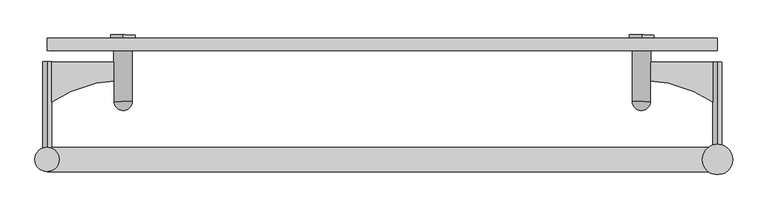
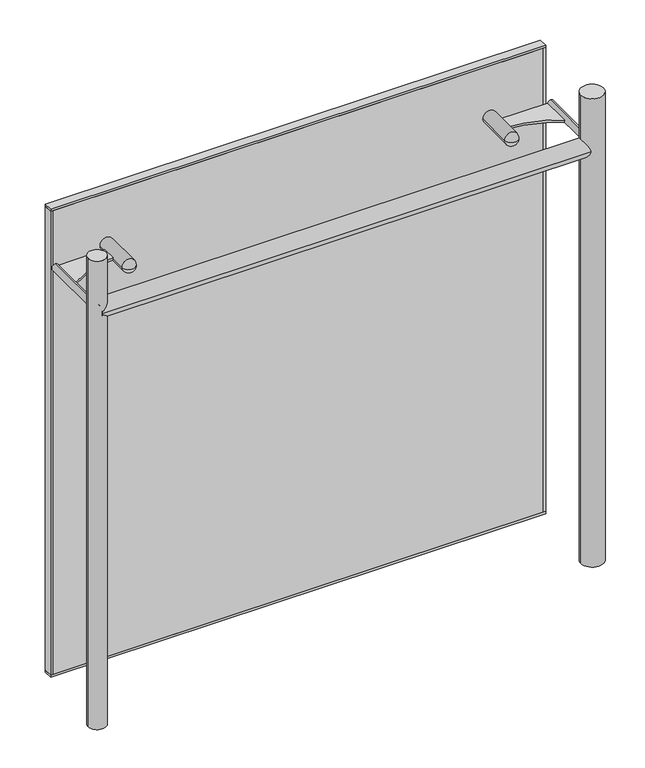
"""IFC4 building model written with IfcOpenShell, lengths in millimetres: plate geometry, FLATNING_TRYOUT : FLATNING_TRYOUT."""

from ifc_helpers import new_model, si_unit, point, frame, frame_2d, origin, origin_with_axes, place, context, project, spatial, polyline, circle_curve, ellipse_curve, trimmed, segment, composite_curve, outline, extrude, source, transform, mapped, element, save
from ifc_brep_helpers import plane_surface, cylinder_surface, revolved_surface, advanced_brep


def plate_eec9145b(model_context):
    return source(origin(), model_context, "Body", "SolidModel", [
        extrude(outline(composite_curve([segment(polyline([(-427.363113, -38.8273073), (-427.208613, -68.8269095)]), True, "CONTINUOUS"), segment(trimmed(circle_curve(frame_2d((-421.8263088, -297.2578864)), 228.4943772), [point((-427.208613, -68.8269095))], [point((-552.0009553, -109.470129))], True, "CARTESIAN"), True, "CONTINUOUS"), segment(polyline([(-552.0009553, -109.470129), (-552.3614553, -39.4710573), (-427.363113, -38.8273073)]), True, "CONTINUOUS")], self_intersect=False)), frame((0.0, 0.0, 977.5), z_axis=(0.0, 0.0, 1.0), x_axis=(1.0, 0.0, 0.0)), (0.0, 0.0, 1.0), 5.0),
        advanced_brep(
        [(-427.569113, 1.1721622, 980.0), (-432.5690467, 1.1464122, 980.0), (-422.5691793, 1.1979122, 980.0), (-412.4663119, -18.7503226, 980.0), (-442.4659141, -18.9048226, 980.0), (-442.0281641, -103.9036953, 980.0), (-412.0285619, -103.7491953, 980.0), (-422.4661793, -18.8018226, 980.0), (-432.4660467, -18.8533226, 980.0), (-426.951113, -118.8262464, 980.0)],
        [
            (0, 1),
            (1, 2, circle_curve(frame((-427.569113, 1.1721622, 980.0), z_axis=(-0.0051500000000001, 0.9999867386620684, 0.0), x_axis=(-0.9999867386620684, -0.0051500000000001, 0.0)), 5.0)),
            (2, 0),
            (2, 1, circle_curve(frame((-427.569113, 1.1721622, 980.0), z_axis=(-0.0051500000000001, 0.9999867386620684, 0.0), x_axis=(-0.9999867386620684, -0.0051500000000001, 0.0)), 5.0)),
            (3, 4, circle_curve(frame((-427.466113, -18.8275726, 980.0), z_axis=(0.0051500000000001, -0.9999867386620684, 0.0), x_axis=(-0.9999867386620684, -0.0051500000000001, 0.0)), 15.0)),
            (4, 5),
            (5, 6, circle_curve(frame((-427.028363, -103.8264453, 980.0), z_axis=(-0.0051500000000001, 0.9999867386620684, 0.0), x_axis=(-0.9999867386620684, -0.0051500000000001, 0.0)), 15.0)),
            (6, 3),
            (4, 3, circle_curve(frame((-427.466113, -18.8275726, 980.0), z_axis=(0.0051500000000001, -0.9999867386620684, 0.0), x_axis=(-0.9999867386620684, -0.0051500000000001, 0.0)), 15.0)),
            (6, 5, circle_curve(frame((-427.028363, -103.8264453, 980.0), z_axis=(-0.0051500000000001, 0.9999867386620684, 0.0), x_axis=(-0.9999867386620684, -0.0051500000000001, 0.0)), 15.0)),
            (7, 8, circle_curve(frame((-427.466113, -18.8275726, 980.0), z_axis=(0.0051500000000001, -0.9999867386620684, 0.0), x_axis=(-0.9999867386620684, -0.0051500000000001, 0.0)), 5.0)),
            (8, 4),
            (3, 7),
            (8, 7, circle_curve(frame((-427.466113, -18.8275726, 980.0), z_axis=(0.0051500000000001, -0.9999867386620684, 0.0), x_axis=(-0.9999867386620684, -0.0051500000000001, 0.0)), 5.0)),
            (1, 8),
            (7, 2),
            (5, 9, circle_curve(frame((-427.028363, -103.8264453, 980.0), z_axis=(0.0, 0.0, 1.0), x_axis=(-0.9999867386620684, -0.0051500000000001, 0.0)), 15.0)),
            (9, 6, circle_curve(frame((-427.028363, -103.8264453, 980.0), z_axis=(0.0, 0.0, 1.0), x_axis=(0.9999867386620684, 0.0051500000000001, 0.0)), 15.0)),
        ],
        [
            plane_surface(frame((-427.569113, 1.1721622, 980.0), z_axis=(-0.0051500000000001, 0.9999867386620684, 0.0), x_axis=(-0.9999867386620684, -0.0051500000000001, 0.0))),
            cylinder_surface(frame((-428.882363, 256.1687806, 980.0), z_axis=(-0.0051500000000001, 0.9999867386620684, 0.0), x_axis=(-0.9999867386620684, -0.0051500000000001, 0.0)), 15.0),
            plane_surface(frame((-427.466113, -18.8275726, 980.0), z_axis=(-0.0051500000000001, 0.9999867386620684, 0.0), x_axis=(-0.9999867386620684, -0.0051500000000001, 0.0))),
            cylinder_surface(frame((-428.882363, 256.1687806, 980.0), z_axis=(-0.0051500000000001, 0.9999867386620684, 0.0), x_axis=(-0.9999867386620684, -0.0051500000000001, 0.0)), 5.0),
            revolved_surface(trimmed(ellipse_curve(frame((-427.028363, -103.8264453, 980.0), z_axis=(0.0, 0.0, -1.0), x_axis=(-0.9999867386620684, -0.0051500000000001, 0.0)), 15.0, 15.0), [point((-426.951113, -118.8262464, 980.0))], [point((-442.0281641, -103.9036953, 980.0))], True, "CARTESIAN"), (-428.882363, 256.1687806, 980.0), (-0.0051500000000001, 0.9999867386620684, 0.0)),
        ],
        [
            (0, [[1, 2, 3]]),
            (0, [[-3, 4, -1]]),
            (1, [[5, 6, 7, 8]]),
            (1, [[9, -8, 10, -6]]),
            (2, [[11, 12, -5, 13]]),
            (2, [[14, -13, -9, -12]]),
            (3, [[-2, 15, -11, 16]]),
            (3, [[-4, -16, -14, -15]]),
            (4, [[-7, 17, 18]]),
            (4, [[-10, -18, -17]]),
        ],
    ),
        extrude(outline(composite_curve([segment(polyline([(427.363113, -38.8273073), (552.3614553, -39.4710573), (552.0009553, -109.470129)]), True, "CONTINUOUS"), segment(trimmed(circle_curve(frame_2d((421.8263088, -297.2578864)), 228.4943772), [point((552.0009553, -109.470129))], [point((427.208613, -68.8269095))], True, "CARTESIAN"), True, "CONTINUOUS"), segment(polyline([(427.208613, -68.8269095), (427.363113, -38.8273073)]), True, "CONTINUOUS")], self_intersect=False)), frame((0.0, 0.0, 977.5), z_axis=(0.0, 0.0, 1.0), x_axis=(1.0, 0.0, 0.0)), (0.0, 0.0, 1.0), 5.0),
        advanced_brep(
        [(427.569113, 1.1721622, 980.0), (432.5690467, 1.1464122, 980.0), (422.5691793, 1.1979122, 980.0), (412.4663119, -18.7503226, 980.0), (442.4659141, -18.9048226, 980.0), (442.0281641, -103.9036953, 980.0), (412.0285619, -103.7491953, 980.0), (422.4661793, -18.8018226, 980.0), (432.4660467, -18.8533226, 980.0), (426.951113, -118.8262464, 980.0)],
        [
            (0, 1),
            (1, 2, circle_curve(frame((427.569113, 1.1721622, 980.0), z_axis=(0.005149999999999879, 0.9999867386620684, 0.0), x_axis=(0.9999867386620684, -0.005149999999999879, 0.0)), 5.0)),
            (2, 0),
            (2, 1, circle_curve(frame((427.569113, 1.1721622, 980.0), z_axis=(0.005149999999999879, 0.9999867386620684, 0.0), x_axis=(0.9999867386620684, -0.005149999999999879, 0.0)), 5.0)),
            (3, 4, circle_curve(frame((427.466113, -18.8275726, 980.0), z_axis=(-0.005149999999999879, -0.9999867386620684, 0.0), x_axis=(0.9999867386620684, -0.005149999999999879, 0.0)), 15.0)),
            (4, 5),
            (5, 6, circle_curve(frame((427.028363, -103.8264453, 980.0), z_axis=(0.005149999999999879, 0.9999867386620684, 0.0), x_axis=(0.9999867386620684, -0.005149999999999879, 0.0)), 15.0)),
            (6, 3),
            (4, 3, circle_curve(frame((427.466113, -18.8275726, 980.0), z_axis=(-0.005149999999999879, -0.9999867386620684, 0.0), x_axis=(0.9999867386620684, -0.005149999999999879, 0.0)), 15.0)),
            (6, 5, circle_curve(frame((427.028363, -103.8264453, 980.0), z_axis=(0.005149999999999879, 0.9999867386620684, 0.0), x_axis=(0.9999867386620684, -0.005149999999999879, 0.0)), 15.0)),
            (7, 8, circle_curve(frame((427.466113, -18.8275726, 980.0), z_axis=(-0.005149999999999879, -0.9999867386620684, 0.0), x_axis=(0.9999867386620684, -0.005149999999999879, 0.0)), 5.0)),
            (8, 4),
            (3, 7),
            (8, 7, circle_curve(frame((427.466113, -18.8275726, 980.0), z_axis=(-0.005149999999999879, -0.9999867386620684, 0.0), x_axis=(0.9999867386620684, -0.005149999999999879, 0.0)), 5.0)),
            (1, 8),
            (7, 2),
            (5, 9, circle_curve(frame((427.028363, -103.8264453, 980.0), z_axis=(0.0, 0.0, -1.0), x_axis=(0.9999867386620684, -0.005149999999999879, 0.0)), 15.0)),
            (9, 6, circle_curve(frame((427.028363, -103.8264453, 980.0), z_axis=(0.0, 0.0, -1.0), x_axis=(-0.9999867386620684, 0.005149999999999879, 0.0)), 15.0)),
        ],
        [
            plane_surface(frame((427.569113, 1.1721622, 980.0), z_axis=(0.005149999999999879, 0.9999867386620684, 0.0), x_axis=(0.9999867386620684, -0.005149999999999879, 0.0))),
            cylinder_surface(frame((428.882363, 256.1687806, 980.0), z_axis=(0.005149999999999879, 0.9999867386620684, 0.0), x_axis=(0.9999867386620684, -0.005149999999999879, 0.0)), 15.0),
            plane_surface(frame((427.466113, -18.8275726, 980.0), z_axis=(0.005149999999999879, 0.9999867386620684, 0.0), x_axis=(0.9999867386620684, -0.005149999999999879, 0.0))),
            cylinder_surface(frame((428.882363, 256.1687806, 980.0), z_axis=(0.005149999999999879, 0.9999867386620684, 0.0), x_axis=(0.9999867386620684, -0.005149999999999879, 0.0)), 5.0),
            revolved_surface(trimmed(ellipse_curve(frame((427.028363, -103.8264453, 980.0), z_axis=(0.0, 0.0, 1.0), x_axis=(0.9999867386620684, -0.005149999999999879, 0.0)), 15.0, 15.0), [point((426.951113, -118.8262464, 980.0))], [point((442.0281641, -103.9036953, 980.0))], True, "CARTESIAN"), (428.882363, 256.1687806, 980.0), (0.005149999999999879, 0.9999867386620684, 0.0)),
        ],
        [
            (0, [[1, 2, 3]]),
            (0, [[-3, 4, -1]]),
            (1, [[5, 6, 7, 8]]),
            (1, [[9, -8, 10, -6]]),
            (2, [[11, 12, -5, 13]]),
            (2, [[14, -13, -9, -12]]),
            (3, [[-2, 15, -11, 16]]),
            (3, [[-4, -16, -14, -15]]),
            (4, [[-7, 17, 18]]),
            (4, [[-10, -18, -17]]),
        ],
    ),
        extrude(outline(polyline([(552.5, -20.0), (-552.5, -20.0), (-552.5, 0.0), (552.5, 0.0), (552.5, -20.0)])), origin_with_axes(), (0.0, 0.0, 1.0), 5.0),
        extrude(outline(polyline([(552.5, -20.0), (-552.5, -20.0), (-552.5, 0.0), (552.5, 0.0), (552.5, -20.0)])), frame((0.0, 0.0, 1100.0), z_axis=(0.0, 0.0, 1.0), x_axis=(1.0, 0.0, 0.0)), (0.0, 0.0, 1.0), 5.0),
        extrude(outline(polyline([(547.5, 0.0781286), (552.5, 0.0781286), (552.5, -20.0), (547.5, -20.0), (547.5, 0.0781286)])), frame((0.0, 0.0, 5.0), z_axis=(0.0, 0.0, 1.0), x_axis=(1.0, 0.0, 0.0)), (0.0, 0.0, 1.0), 1095.0),
        extrude(outline(polyline([(-547.5, 0.5287596), (-547.5, -20.0), (-552.5000001, -20.0), (-552.5000001, 0.5287596), (-547.5, 0.5287596)])), frame((0.0, 0.0, 5.0), z_axis=(0.0, 0.0, 1.0), x_axis=(1.0, 0.0, 0.0)), (0.0, 0.0, 1.0), 1095.0),
        extrude(outline(polyline([(547.5, -20.0), (-547.5, -20.0), (-547.5, 0.0), (547.5, 0.0), (547.5, -20.0)])), frame((0.0, 0.0, 5.0), z_axis=(0.0, 0.0, 1.0), x_axis=(1.0, 0.0, 0.0)), (0.0, 0.0, 1.0), 1095.0),
        extrude(outline(composite_curve([segment(trimmed(circle_curve(frame_2d((0.0, -20.0)), 20.0), [point((0.0, -40.0))], [point((0.0, 0.0))], False, "CARTESIAN"), True, "CONTINUOUS"), segment(trimmed(circle_curve(frame_2d((0.0, -20.0)), 20.0), [point((0.0, 0.0))], [point((0.0, -40.0))], False, "CARTESIAN"), True, "CONTINUOUS")], self_intersect=False)), frame((-427.52575, 0.7218872, 1000.1579003), z_axis=(0.005149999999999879, 0.9999867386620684, 0.0), x_axis=(-0.9999867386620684, 0.005149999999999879, 0.0)), (0.0, 0.0, 1.0), 5.0),
        extrude(outline(composite_curve([segment(trimmed(circle_curve(frame_2d((0.0, -20.0)), 20.0), [point((0.0, -40.0))], [point((0.0, 0.0))], False, "CARTESIAN"), True, "CONTINUOUS"), segment(trimmed(circle_curve(frame_2d((0.0, -20.0)), 20.0), [point((0.0, 0.0))], [point((0.0, -40.0))], False, "CARTESIAN"), True, "CONTINUOUS")], self_intersect=False)), frame((427.47425, 0.7218872, 1000.1579003), z_axis=(0.005149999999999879, 0.9999867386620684, 0.0), x_axis=(-0.9999867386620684, 0.005149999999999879, 0.0)), (0.0, 0.0, 1.0), 5.0),
        extrude(outline(composite_curve([segment(trimmed(circle_curve(frame_2d((-200.0, 980.0)), 20.0), [point((-220.0, 980.0))], [point((-180.0, 980.0))], False, "CARTESIAN"), True, "CONTINUOUS"), segment(trimmed(circle_curve(frame_2d((-200.0, 980.0)), 20.0), [point((-180.0, 980.0))], [point((-220.0, 980.0))], False, "CARTESIAN"), True, "CONTINUOUS")], self_intersect=False)), frame((-552.5, 0.0, 0.0), z_axis=(1.0, 0.0, 0.0), x_axis=(0.0, 1.0, 0.0)), (0.0, 0.0, 1.0), 1105.0),
        extrude(outline(composite_curve([segment(trimmed(circle_curve(frame_2d((980.0, 552.5)), 7.5), [point((972.5, 552.5))], [point((987.5, 552.5))], False, "CARTESIAN"), True, "CONTINUOUS"), segment(trimmed(circle_curve(frame_2d((980.0, 552.5)), 7.5), [point((987.5, 552.5))], [point((972.5, 552.5))], False, "CARTESIAN"), True, "CONTINUOUS")], self_intersect=False)), frame((0.0, -199.2242369, 0.0), z_axis=(0.0, 1.0, 0.0), x_axis=(0.0, 0.0, 1.0)), (0.0, 0.0, 1.0), 160.0),
        extrude(outline(composite_curve([segment(trimmed(circle_curve(frame_2d((980.0, -552.5)), 7.5), [point((972.5, -552.5))], [point((987.5, -552.5))], False, "CARTESIAN"), True, "CONTINUOUS"), segment(trimmed(circle_curve(frame_2d((980.0, -552.5)), 7.5), [point((987.5, -552.5))], [point((972.5, -552.5))], False, "CARTESIAN"), True, "CONTINUOUS")], self_intersect=False)), frame((0.0, -198.6528093, 0.0), z_axis=(0.0, 1.0, 0.0), x_axis=(0.0, 0.0, 1.0)), (0.0, 0.0, 1.0), 160.0),
        extrude(outline(composite_curve([segment(trimmed(circle_curve(frame_2d((552.5, -200.0)), 25.0), [point((527.5, -200.0))], [point((577.5, -200.0))], False, "CARTESIAN"), True, "CONTINUOUS"), segment(trimmed(circle_curve(frame_2d((552.5, -200.0)), 25.0), [point((577.5, -200.0))], [point((527.5, -200.0))], False, "CARTESIAN"), True, "CONTINUOUS")], self_intersect=False)), origin_with_axes(), (0.0, 0.0, 1.0), 1105.0),
        extrude(outline(composite_curve([segment(trimmed(circle_curve(frame_2d((-552.5, -200.0)), 20.0), [point((-572.5, -200.0))], [point((-532.5, -200.0))], False, "CARTESIAN"), True, "CONTINUOUS"), segment(trimmed(circle_curve(frame_2d((-552.5, -200.0)), 20.0), [point((-532.5, -200.0))], [point((-572.5, -200.0))], False, "CARTESIAN"), True, "CONTINUOUS")], self_intersect=False)), origin_with_axes(), (0.0, 0.0, 1.0), 1105.0),
    ])


if __name__ == "__main__":
    model = new_model("IFC4")
    model_context = context("Model", 3, world=origin())
    ifc_project = project(units=[si_unit("LENGTHUNIT", "METRE", prefix="MILLI")], contexts=[model_context])
    site = spatial("IfcSite", under=ifc_project)
    building = spatial("IfcBuilding", under=site)
    placement = place(None, origin())
    plate_shape = plate_eec9145b(model_context)
    element("IfcPlate", 1, ObjectType="FLATNING_TRYOUT : FLATNING_TRYOUT", at=placement, inside=building, context=model_context, shape_type="MappedRepresentation", body=[
        mapped(plate_shape, transform((0.0, 0.0, 0.0), x_axis=(1.0, 0.0, 0.0), y_axis=(0.0, 1.0, 0.0), z_axis=(0.0, 0.0, 1.0))),
    ])
    save(model, "model.ifc")
